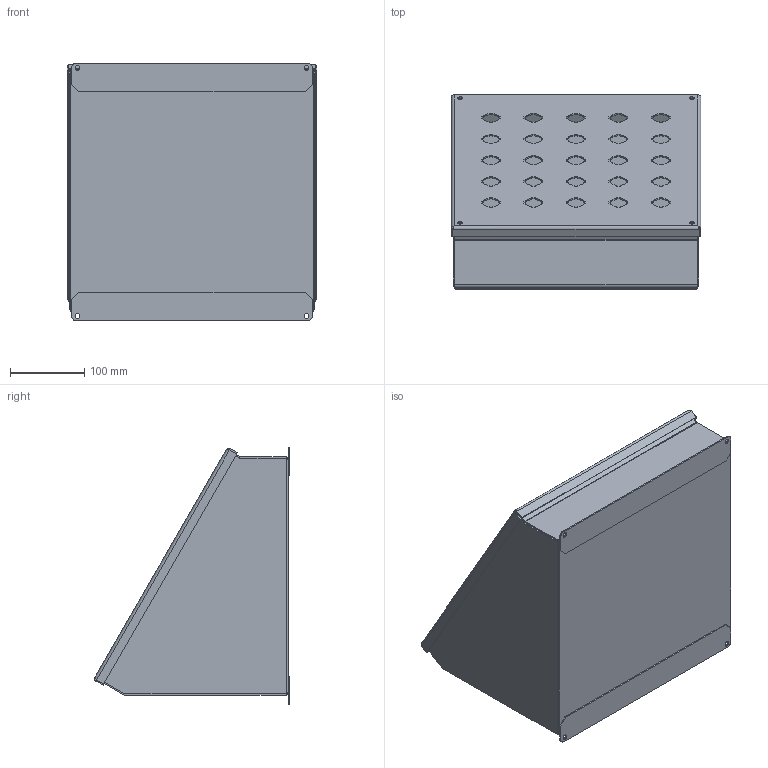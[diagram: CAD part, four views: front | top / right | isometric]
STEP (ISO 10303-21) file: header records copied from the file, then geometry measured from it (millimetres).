
FILE_DESCRIPTION (( 'STEP AP203' ), '1' );
FILE_NAME ('e25pbam.STEP', '2010-09-13T14:03:18', ( 'Hoffman User' ), ( 'Hoffman Enclosures' ), 'SwSTEP 2.0', 'SolidWorks 2009', '' );
FILE_SCHEMA (( 'CONFIG_CONTROL_DESIGN' ));
Length unit declared in the file: inch
Products named in the file (12): SlopedFrontLeft_14.00; 58102002_hinge; stud_gnd_10-32x500; SlopedFrontCover_e25pbam; e25pbam; SlopedFrontWmt_e25pba; SlopedFrontWrapper_e25pba; SlopedFrontRight_14.00; Mounting_Foot_11258782; Weldnut_Gnd_31194001; Slide_58103002
Assembly tree (13 placements, depth 3):
  e25pbam
    SlopedFrontWmt_e25pba
      Weldnut_Gnd_31194001
      Mounting_Foot_11258782  x2
      SlopedFrontWrapper_e25pba
      SlopedFrontRight_14.00
      SlopedFrontLeft_14.00
    SlopedFrontCover_e25pbam
      SlopedFrontCover_e25pbam
      58102002_hinge  x2
      stud_gnd_10-32x500
    Slide_58103002
Bounding box: 335.79 x 261.98 x 346.07 mm (x, y, z)
Volume: 888125.3 mm3; surface area: 990157.1 mm2
Topology: 11 solids, 11 shells, 705 faces, 1938 edges, 1255 vertices
Faces by surface type: plane 499, cylinder 194, bspline 8, cone 4
Entity records: 23057 total; most frequent: CARTESIAN_POINT 4644, ORIENTED_EDGE 3606, DIRECTION 3455, EDGE_CURVE 1803, VECTOR 1451, LINE 1451, VERTEX_POINT 1167, AXIS2_PLACEMENT_3D 1002
